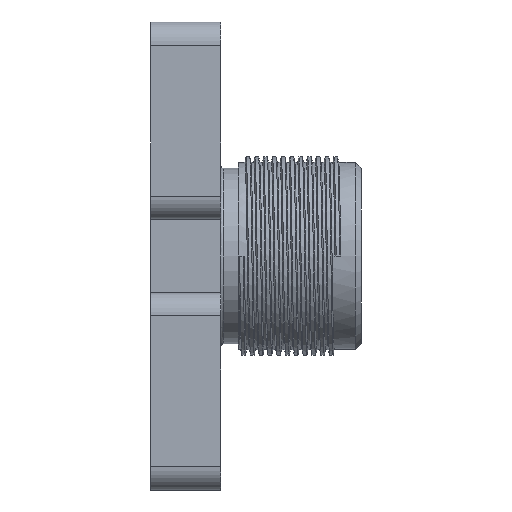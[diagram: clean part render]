
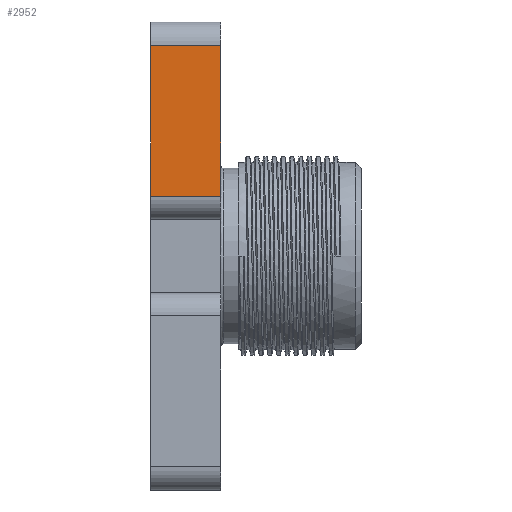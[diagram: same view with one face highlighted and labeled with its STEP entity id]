
A CAD part, left-side view. The second image highlights one B-rep face of the part: STEP entity #2952.
In plain terms, the highlighted planar face has unit normal (-1, 0, 0).
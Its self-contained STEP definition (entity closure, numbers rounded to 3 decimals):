
#105 = LINE ( 'NONE', #303, #793 ) ;
#137 = CARTESIAN_POINT ( 'NONE',  ( -30., 6., 18. ) ) ;
#187 = AXIS2_PLACEMENT_3D ( 'NONE', #3914, #3258, #1177 ) ;
#209 = LINE ( 'NONE', #2407, #1873 ) ;
#303 = CARTESIAN_POINT ( 'NONE',  ( -30., 3., 5.1 ) ) ;
#326 = EDGE_CURVE ( 'NONE', #3200, #1475, #3126, .T. ) ;
#458 = ORIENTED_EDGE ( 'NONE', *, *, #3256, .T. ) ;
#462 = ORIENTED_EDGE ( 'NONE', *, *, #933, .F. ) ;
#793 = VECTOR ( 'NONE', #4463, 1000. ) ;
#933 = EDGE_CURVE ( 'NONE', #2105, #1329, #3569, .T. ) ;
#1068 = DIRECTION ( 'NONE',  ( 0., 0., 1. ) ) ;
#1177 = DIRECTION ( 'NONE',  ( 0., 0., -1. ) ) ;
#1329 = VERTEX_POINT ( 'NONE', #137 ) ;
#1384 = DIRECTION ( 'NONE',  ( 0., 0., 1. ) ) ;
#1475 = VERTEX_POINT ( 'NONE', #3142 ) ;
#1674 = EDGE_LOOP ( 'NONE', ( #2789, #2072, #458, #462 ) ) ;
#1873 = VECTOR ( 'NONE', #2060, 1000. ) ;
#2060 = DIRECTION ( 'NONE',  ( 0., 1., 0. ) ) ;
#2072 = ORIENTED_EDGE ( 'NONE', *, *, #326, .T. ) ;
#2089 = CARTESIAN_POINT ( 'NONE',  ( -30., 6., 5.1 ) ) ;
#2105 = VERTEX_POINT ( 'NONE', #2089 ) ;
#2407 = CARTESIAN_POINT ( 'NONE',  ( -30., 3., 18. ) ) ;
#2588 = PLANE ( 'NONE',  #187 ) ;
#2789 = ORIENTED_EDGE ( 'NONE', *, *, #3337, .F. ) ;
#2932 = CARTESIAN_POINT ( 'NONE',  ( -30., 0., 0. ) ) ;
#2952 = ADVANCED_FACE ( 'NONE', ( #4213 ), #2588, .F. ) ;
#3126 = LINE ( 'NONE', #2932, #3131 ) ;
#3131 = VECTOR ( 'NONE', #1068, 1000. ) ;
#3142 = CARTESIAN_POINT ( 'NONE',  ( -30., 0., 18. ) ) ;
#3200 = VERTEX_POINT ( 'NONE', #3373 ) ;
#3256 = EDGE_CURVE ( 'NONE', #1475, #1329, #209, .T. ) ;
#3258 = DIRECTION ( 'NONE',  ( 1., 0., 0. ) ) ;
#3337 = EDGE_CURVE ( 'NONE', #3200, #2105, #105, .T. ) ;
#3373 = CARTESIAN_POINT ( 'NONE',  ( -30., 0., 5.1 ) ) ;
#3567 = VECTOR ( 'NONE', #1384, 1000. ) ;
#3569 = LINE ( 'NONE', #4294, #3567 ) ;
#3914 = CARTESIAN_POINT ( 'NONE',  ( -30., 0., 18. ) ) ;
#4213 = FACE_OUTER_BOUND ( 'NONE', #1674, .T. ) ;
#4294 = CARTESIAN_POINT ( 'NONE',  ( -30., 6., 0. ) ) ;
#4463 = DIRECTION ( 'NONE',  ( 0., 1., 0. ) ) ;
